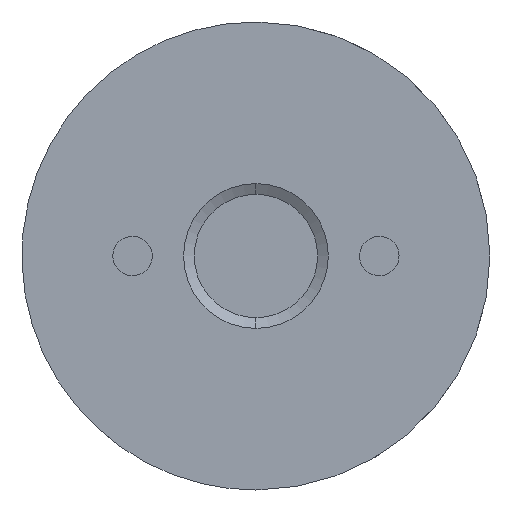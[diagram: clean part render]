
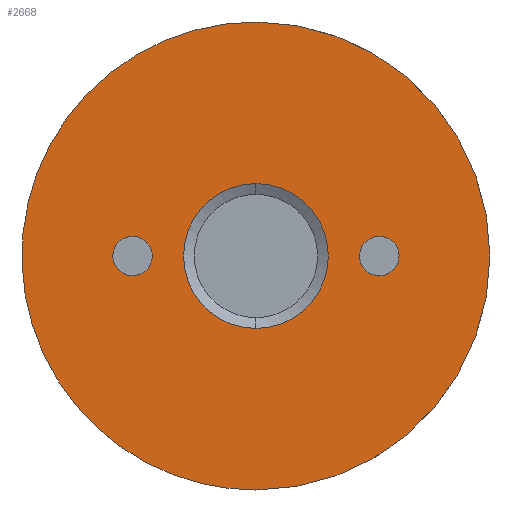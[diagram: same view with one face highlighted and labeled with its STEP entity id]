
A CAD part, front view. The second image highlights one B-rep face of the part: STEP entity #2668.
In plain terms, the highlighted planar face has unit normal (0, -1, 0) as drawn and (0, 0, -1) by its records, which use the part's own axes.
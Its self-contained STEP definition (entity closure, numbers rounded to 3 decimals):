
#10 = DIRECTION ( 'NONE',  ( 0., 0., 1. ) ) ;
#45 = ORIENTED_EDGE ( 'NONE', *, *, #261, .T. ) ;
#261 = EDGE_CURVE ( 'NONE', #7053, #5805, #5223, .T. ) ;
#331 = DIRECTION ( 'NONE',  ( 0., 0., 1. ) ) ;
#402 = CARTESIAN_POINT ( 'NONE',  ( 17.958, 7.521, -5.1 ) ) ;
#407 = CARTESIAN_POINT ( 'NONE',  ( -0.767, 8.596, -5.1 ) ) ;
#409 = DIRECTION ( 'NONE',  ( 0., 0., -1. ) ) ;
#440 = CARTESIAN_POINT ( 'NONE',  ( -18.966, 0., -5.1 ) ) ;
#446 = CIRCLE ( 'NONE', #6846, 5.866 ) ;
#657 = CIRCLE ( 'NONE', #3409, 1.6 ) ;
#851 = EDGE_LOOP ( 'NONE', ( #1675, #3470 ) ) ;
#852 = DIRECTION ( 'NONE',  ( 1., 0., 0. ) ) ;
#874 = EDGE_CURVE ( 'NONE', #3348, #6262, #2918, .T. ) ;
#907 = CARTESIAN_POINT ( 'NONE',  ( -13.813, 13.177, -5.1 ) ) ;
#927 = PLANE ( 'NONE',  #6052 ) ;
#1204 = VERTEX_POINT ( 'NONE', #3346 ) ;
#1322 = DIRECTION ( 'NONE',  ( 0., 0., 1. ) ) ;
#1441 = CARTESIAN_POINT ( 'NONE',  ( -17.549, 7.381, -5.1 ) ) ;
#1481 = CARTESIAN_POINT ( 'NONE',  ( -18.328, 4.995, -5.1 ) ) ;
#1564 = DIRECTION ( 'NONE',  ( 0., 0., 1. ) ) ;
#1675 = ORIENTED_EDGE ( 'NONE', *, *, #6540, .T. ) ;
#1986 = FACE_BOUND ( 'NONE', #851, .T. ) ;
#2032 = CARTESIAN_POINT ( 'NONE',  ( 0., -10., -5.1 ) ) ;
#2040 = EDGE_LOOP ( 'NONE', ( #5440, #45 ) ) ;
#2116 = AXIS2_PLACEMENT_3D ( 'NONE', #4174, #4610, #6378 ) ;
#2371 = CIRCLE ( 'NONE', #6845, 5.866 ) ;
#2411 = ORIENTED_EDGE ( 'NONE', *, *, #874, .T. ) ;
#2522 = CARTESIAN_POINT ( 'NONE',  ( -10.946, 15.64, -5.1 ) ) ;
#2526 = ORIENTED_EDGE ( 'NONE', *, *, #6004, .T. ) ;
#2623 = CARTESIAN_POINT ( 'NONE',  ( -18.916, 1.598, -5.1 ) ) ;
#2668 = ADVANCED_FACE ( 'NONE', ( #1986, #4684, #5853, #3755 ), #927, .F. ) ;
#2725 = DIRECTION ( 'NONE',  ( -0.479, -0.878, 0. ) ) ;
#2787 = CARTESIAN_POINT ( 'NONE',  ( 18.966, 0., -5.1 ) ) ;
#2888 = B_SPLINE_CURVE_WITH_KNOTS ( 'NONE', 3,
 ( #440, #4292, #4730, #2623, #5356, #1481, #1441, #5392, #907, #2522, #4155, #6937, #3206, #6503, #402, #5896, #5288 ),
 .UNSPECIFIED., .F., .F.,
 ( 4, 1, 1, 1, 1, 1, 1, 1, 1, 1, 1, 1, 1, 1, 4 ),
 ( 0., 0.006, 0.022, 0.053, 0.085, 0.116, 0.179, 0.242, 0.306, 0.369, 0.495, 0.621, 0.747, 0.874, 1. ),
 .UNSPECIFIED. ) ;
#2918 = CIRCLE ( 'NONE', #5569, 18.966 ) ;
#3116 = CARTESIAN_POINT ( 'NONE',  ( 0., 0., -5.1 ) ) ;
#3206 = CARTESIAN_POINT ( 'NONE',  ( 7.238, 18.074, -5.1 ) ) ;
#3303 = ORIENTED_EDGE ( 'NONE', *, *, #3505, .T. ) ;
#3343 = CARTESIAN_POINT ( 'NONE',  ( 0., 10., -5.1 ) ) ;
#3346 = CARTESIAN_POINT ( 'NONE',  ( 5.866, 0., -5.1 ) ) ;
#3348 = VERTEX_POINT ( 'NONE', #2787 ) ;
#3376 = CARTESIAN_POINT ( 'NONE',  ( 0., -10., -5.1 ) ) ;
#3409 = AXIS2_PLACEMENT_3D ( 'NONE', #2032, #1564, #5916 ) ;
#3470 = ORIENTED_EDGE ( 'NONE', *, *, #5081, .T. ) ;
#3505 = EDGE_CURVE ( 'NONE', #1204, #3628, #446, .T. ) ;
#3628 = VERTEX_POINT ( 'NONE', #5774 ) ;
#3747 = CARTESIAN_POINT ( 'NONE',  ( 0.767, 11.404, -5.1 ) ) ;
#3755 = FACE_OUTER_BOUND ( 'NONE', #4414, .T. ) ;
#3799 = DIRECTION ( 'NONE',  ( 0., 0., 1. ) ) ;
#3880 = CARTESIAN_POINT ( 'NONE',  ( -18.966, 0., -5.1 ) ) ;
#3895 = EDGE_CURVE ( 'NONE', #6262, #3348, #2888, .T. ) ;
#4155 = CARTESIAN_POINT ( 'NONE',  ( -6.552, 18.108, -5.1 ) ) ;
#4174 = CARTESIAN_POINT ( 'NONE',  ( 0., 10., -5.1 ) ) ;
#4208 = CIRCLE ( 'NONE', #6749, 1.6 ) ;
#4292 = CARTESIAN_POINT ( 'NONE',  ( -18.966, 0.115, -5.1 ) ) ;
#4414 = EDGE_LOOP ( 'NONE', ( #2411, #5760 ) ) ;
#4557 = AXIS2_PLACEMENT_3D ( 'NONE', #3343, #3799, #2725 ) ;
#4610 = DIRECTION ( 'NONE',  ( 0., 0., 1. ) ) ;
#4684 = FACE_BOUND ( 'NONE', #2040, .T. ) ;
#4696 = CARTESIAN_POINT ( 'NONE',  ( 0., 0., -5.1 ) ) ;
#4730 = CARTESIAN_POINT ( 'NONE',  ( -18.962, 0.543, -5.1 ) ) ;
#4739 = DIRECTION ( 'NONE',  ( 1., 0., 0. ) ) ;
#5081 = EDGE_CURVE ( 'NONE', #5187, #6532, #4208, .T. ) ;
#5095 = DIRECTION ( 'NONE',  ( -1., 0., 0. ) ) ;
#5107 = EDGE_CURVE ( 'NONE', #5805, #7053, #6400, .T. ) ;
#5187 = VERTEX_POINT ( 'NONE', #6137 ) ;
#5223 = CIRCLE ( 'NONE', #2116, 1.6 ) ;
#5288 = CARTESIAN_POINT ( 'NONE',  ( 18.966, 0., -5.1 ) ) ;
#5307 = DIRECTION ( 'NONE',  ( 0., 0., 1. ) ) ;
#5329 = CARTESIAN_POINT ( 'NONE',  ( 0., 0., -5.1 ) ) ;
#5356 = CARTESIAN_POINT ( 'NONE',  ( -18.733, 3.156, -5.1 ) ) ;
#5392 = CARTESIAN_POINT ( 'NONE',  ( -16.139, 10.198, -5.1 ) ) ;
#5440 = ORIENTED_EDGE ( 'NONE', *, *, #5107, .T. ) ;
#5569 = AXIS2_PLACEMENT_3D ( 'NONE', #5329, #409, #4739 ) ;
#5607 = DIRECTION ( 'NONE',  ( 0.479, -0.878, 0. ) ) ;
#5760 = ORIENTED_EDGE ( 'NONE', *, *, #3895, .T. ) ;
#5774 = CARTESIAN_POINT ( 'NONE',  ( -5.866, 0., -5.1 ) ) ;
#5805 = VERTEX_POINT ( 'NONE', #407 ) ;
#5853 = FACE_BOUND ( 'NONE', #5943, .T. ) ;
#5896 = CARTESIAN_POINT ( 'NONE',  ( 18.966, 2.507, -5.1 ) ) ;
#5916 = DIRECTION ( 'NONE',  ( -0.479, 0.878, 0. ) ) ;
#5943 = EDGE_LOOP ( 'NONE', ( #3303, #2526 ) ) ;
#6004 = EDGE_CURVE ( 'NONE', #3628, #1204, #2371, .T. ) ;
#6052 = AXIS2_PLACEMENT_3D ( 'NONE', #3116, #5307, #852 ) ;
#6137 = CARTESIAN_POINT ( 'NONE',  ( 0.767, -11.404, -5.1 ) ) ;
#6203 = DIRECTION ( 'NONE',  ( 1., 0., 0. ) ) ;
#6262 = VERTEX_POINT ( 'NONE', #3880 ) ;
#6378 = DIRECTION ( 'NONE',  ( 0.479, 0.878, 0. ) ) ;
#6400 = CIRCLE ( 'NONE', #4557, 1.6 ) ;
#6503 = CARTESIAN_POINT ( 'NONE',  ( 13.658, 13.875, -5.1 ) ) ;
#6532 = VERTEX_POINT ( 'NONE', #6791 ) ;
#6540 = EDGE_CURVE ( 'NONE', #6532, #5187, #657, .T. ) ;
#6745 = CARTESIAN_POINT ( 'NONE',  ( 0., 0., -5.1 ) ) ;
#6749 = AXIS2_PLACEMENT_3D ( 'NONE', #3376, #10, #5607 ) ;
#6791 = CARTESIAN_POINT ( 'NONE',  ( -0.767, -8.596, -5.1 ) ) ;
#6845 = AXIS2_PLACEMENT_3D ( 'NONE', #4696, #331, #5095 ) ;
#6846 = AXIS2_PLACEMENT_3D ( 'NONE', #6745, #1322, #6203 ) ;
#6937 = CARTESIAN_POINT ( 'NONE',  ( -0.306, 19.467, -5.1 ) ) ;
#7053 = VERTEX_POINT ( 'NONE', #3747 ) ;
